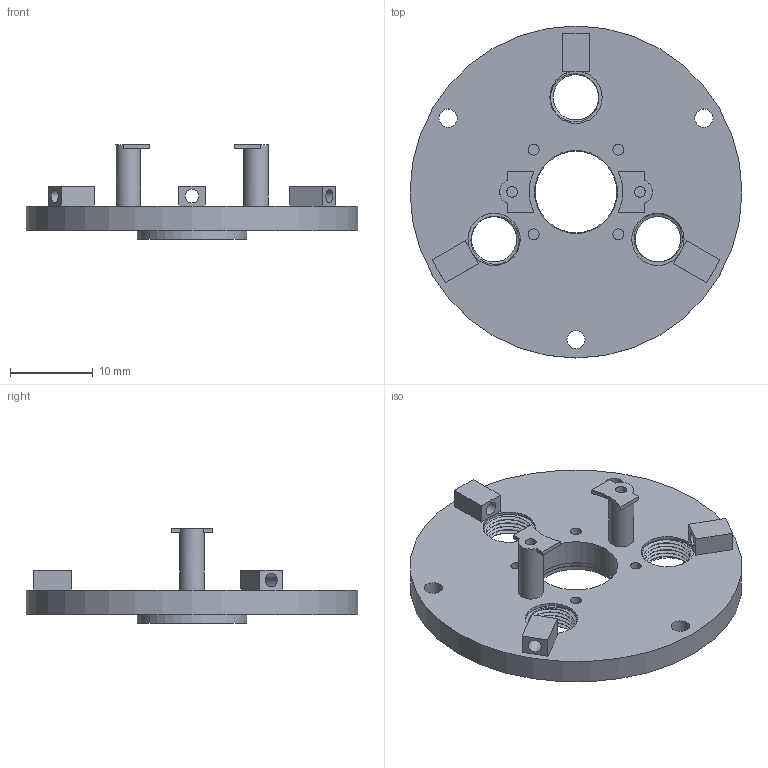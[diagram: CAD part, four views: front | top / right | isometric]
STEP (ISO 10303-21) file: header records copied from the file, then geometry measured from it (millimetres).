
FILE_DESCRIPTION(('Open CASCADE Model'),'2;1');
FILE_NAME('Open CASCADE Shape Model','2026-09-24T19:52:58',('Author'),( 'Open CASCADE'),'Open CASCADE STEP processor 7.8','Open CASCADE 7.8' ,'Unknown');
FILE_SCHEMA(('AUTOMOTIVE_DESIGN { 1 0 10303 214 1 1 1 1 }'));
Length unit declared in the file: millimetre
Products named in the file (1): Open CASCADE STEP translator 7.8 24
Bounding box: 40 x 40 x 11.38 mm (x, y, z)
Volume: 3473.5 mm3; surface area: 3518.5 mm2
Topology: 1 solids, 1 shells, 95 faces, 231 edges, 152 vertices
Faces by surface type: plane 44, cylinder 42, bspline 9
Full cylindrical faces by diameter (mm): 1.3 x6, 1.66 x3, 2.2 x3, 3 x2, 5.46 x12, 6.3 x3, 9.82 x1, 9.98 x1, 10 x1, 13.2 x1, 40 x1
Entity records: 13741 total; most frequent: CARTESIAN_POINT 9252, DIRECTION 744, ORIENTED_EDGE 462, PCURVE 462, DEFINITIONAL_REPRESENTATION 462, LINE 381, VECTOR 381, EDGE_CURVE 231
